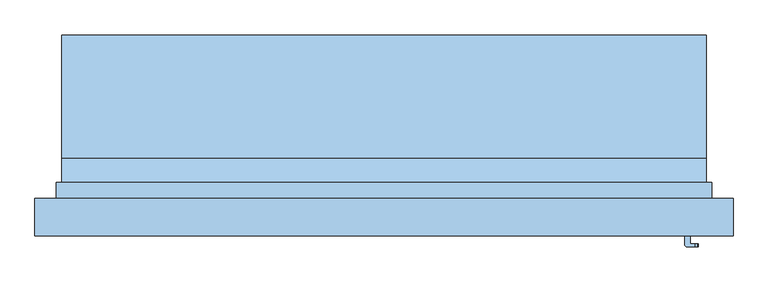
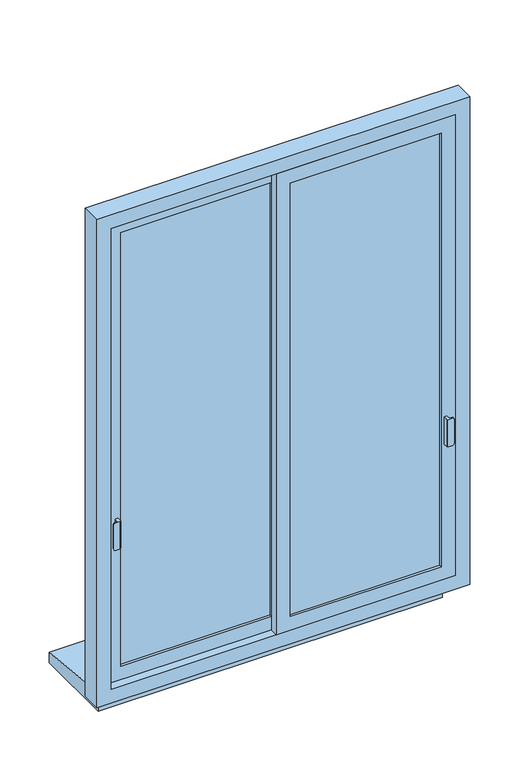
"""IFC4 building model written with IfcOpenShell, lengths in millimetres: window geometry, Fenêtres - 2 Vantaux coulissants - Droits - 1.20m x 1.75m."""

from ifc_helpers import new_model, si_unit, frame, origin, place, context, project, spatial, polyline, outline, extrude, faceted_brep, source, transform, mapped, element, save


def window_433253bf(model_context):
    return source(origin(), model_context, "Body", "SolidModel", [
        extrude(outline(polyline([(100.0, 371.0), (625.0, 371.0), (625.0, 359.0), (100.0, 359.0), (100.0, 371.0)])), frame((0.0, 0.0, 180.0), z_axis=(0.0, 0.0, 1.0), x_axis=(1.0, 0.0, 0.0)), (0.0, 0.0, 1.0), 1600.0),
        extrude(outline(polyline([(130.0, 675.0), (1830.0, 675.0), (1830.0, 50.0), (130.0, 50.0), (130.0, 675.0)]), holes=[polyline([(180.0, 100.0), (1780.0, 100.0), (1780.0, 625.0), (180.0, 625.0), (180.0, 100.0)])]), frame((0.0, 350.0, 0.0), z_axis=(0.0, 1.0, 0.0), x_axis=(0.0, 0.0, 1.0)), (0.0, 0.0, 1.0), 30.0),
        extrude(outline(polyline([(675.0, 341.0), (1200.0, 341.0), (1200.0, 329.0), (675.0, 329.0), (675.0, 341.0)])), frame((0.0, 0.0, 180.0), z_axis=(0.0, 0.0, 1.0), x_axis=(1.0, 0.0, 0.0)), (0.0, 0.0, 1.0), 1600.0),
        extrude(outline(polyline([(130.0, 1250.0), (1830.0, 1250.0), (1830.0, 625.0), (130.0, 625.0), (130.0, 1250.0)]), holes=[polyline([(180.0, 675.0), (1780.0, 675.0), (1780.0, 1200.0), (180.0, 1200.0), (180.0, 675.0)])]), frame((0.0, 320.0, 0.0), z_axis=(0.0, 1.0, 0.0), x_axis=(0.0, 0.0, 1.0)), (0.0, 0.0, 1.0), 30.0),
        extrude(outline(polyline([(80.0, 40.0), (80.0, 50.0), (1830.0, 50.0), (1830.0, 1250.0), (80.0, 1250.0), (80.0, 1260.0), (1840.0, 1260.0), (1840.0, 40.0), (80.0, 40.0)])), frame((0.0, 390.0, 0.0), z_axis=(0.0, 1.0, 0.0), x_axis=(0.0, 0.0, 1.0)), (0.0, 0.0, 1.0), 30.0),
        faceted_brep([(90.0, 332.4686818, 630.0), (87.5313182, 330.0, 630.0), (70.9522175, 330.0, 630.0), (70.9522175, 335.0, 630.0), (80.0, 335.0, 630.0), (80.0, 350.0, 630.0), (90.0, 350.0, 630.0), (90.0, 350.0, 730.0), (80.0, 350.0, 730.0), (80.0, 335.0, 730.0), (70.9522175, 335.0, 730.0), (70.9522175, 330.0, 730.0), (87.5313182, 330.0, 730.0), (90.0, 332.4686818, 730.0), (66.7433641, 335.0, 631.7433641), (65.0, 335.0, 635.9522175), (65.0, 335.0, 724.0477825), (66.7433641, 335.0, 728.2566359), (65.0, 330.0, 635.9522175), (65.0, 330.0, 724.0477825), (66.7433641, 330.0, 631.7433641), (66.7433641, 330.0, 728.2566359)], [[[0, 1, 2, 3, 4, 5, 6]], [[7, 8, 9, 10, 11, 12, 13]], [[7, 13, 0, 6]], [[8, 7, 6, 5]], [[9, 8, 5, 4]], [[14, 15, 16, 17, 10, 9, 4, 3]], [[18, 19, 16, 15]], [[20, 2, 1, 12, 11, 21, 19, 18]], [[13, 12, 1, 0]], [[11, 10, 17, 21]], [[17, 16, 19, 21]], [[18, 15, 14, 20]], [[14, 3, 2, 20]]]),
        faceted_brep([(1220.0, 320.0, 630.0), (1220.0, 305.0, 630.0), (1229.0477825, 305.0, 630.0), (1229.0477825, 300.0, 630.0), (1212.4686818, 300.0, 630.0), (1210.0, 302.4686818, 630.0), (1210.0, 320.0, 630.0), (1220.0, 320.0, 730.0), (1210.0, 320.0, 730.0), (1210.0, 302.4686818, 730.0), (1212.4686818, 300.0, 730.0), (1229.0477825, 300.0, 730.0), (1229.0477825, 305.0, 730.0), (1220.0, 305.0, 730.0), (1233.2566359, 305.0, 631.7433641), (1233.2566359, 305.0, 728.2566359), (1235.0, 305.0, 724.0477825), (1235.0, 305.0, 635.9522175), (1235.0, 300.0, 724.0477825), (1235.0, 300.0, 635.9522175), (1233.2566359, 300.0, 631.7433641), (1233.2566359, 300.0, 728.2566359)], [[[0, 1, 2, 3, 4, 5, 6]], [[7, 8, 9, 10, 11, 12, 13]], [[8, 6, 5, 9]], [[7, 0, 6, 8]], [[13, 1, 0, 7]], [[14, 2, 1, 13, 12, 15, 16, 17]], [[18, 19, 17, 16]], [[3, 20, 19, 18, 21, 11, 10, 4]], [[9, 5, 4, 10]], [[12, 11, 21, 15]], [[16, 15, 21, 18]], [[17, 19, 20, 14]], [[2, 14, 20, 3]]]),
        faceted_brep([(1300.0, 320.0, 80.0), (0.0, 320.0, 80.0), (0.0, 390.0, 80.0), (50.0, 390.0, 80.0), (50.0, 455.0, 80.0), (1250.0, 455.0, 80.0), (1250.0, 390.0, 80.0), (1300.0, 390.0, 80.0), (0.0, 390.0, 1880.0), (0.0, 320.0, 1880.0), (1300.0, 390.0, 1880.0), (1250.0, 390.0, 128.7543642), (50.0, 390.0, 128.7543642), (1235.0, 390.0, 1815.0), (65.0, 390.0, 1815.0), (65.0, 390.0, 145.0), (1235.0, 390.0, 145.0), (50.0, 465.0, 108.6581748), (50.0, 465.0, 75.0), (50.0, 455.0, 75.0), (1250.0, 455.0, 75.0), (1250.0, 465.0, 75.0), (1250.0, 465.0, 108.6581748), (1300.0, 320.0, 1880.0), (50.0, 320.0, 1830.0), (1250.0, 320.0, 1830.0), (1250.0, 320.0, 130.0), (50.0, 320.0, 130.0), (65.0, 380.0, 1815.0), (65.0, 380.0, 145.0), (1235.0, 380.0, 145.0), (1235.0, 380.0, 1815.0), (1250.0, 380.0, 130.0), (1250.0, 380.0, 1830.0), (50.0, 380.0, 1830.0), (50.0, 380.0, 130.0)], [[[0, 1, 2, 3, 4, 5, 6, 7]], [[8, 2, 1, 9]], [[3, 2, 8, 10, 7, 6, 11, 12], [13, 14, 15, 16]], [[3, 12, 17, 18, 19, 4]], [[5, 4, 19, 20]], [[6, 5, 20, 21, 22, 11]], [[0, 7, 10, 23]], [[9, 1, 0, 23], [24, 25, 26, 27]], [[15, 14, 28, 29]], [[15, 29, 30, 16]], [[30, 31, 13, 16]], [[22, 17, 12, 11]], [[32, 33, 34, 35], [29, 28, 31, 30]], [[27, 35, 34, 24]], [[35, 27, 26, 32]], [[26, 25, 33, 32]], [[21, 18, 17, 22]], [[20, 19, 18, 21]], [[28, 14, 13, 31]], [[24, 34, 33, 25]], [[23, 10, 8, 9]]]),
        extrude(outline(polyline([(400.0, 80.0), (450.0, 80.0), (450.0, 65.0), (695.0, 39.2494624), (695.0, 0.0), (400.0, 0.0), (400.0, 80.0)])), frame((50.0, 0.0, 0.0), z_axis=(1.0, 0.0, 0.0), x_axis=(0.0, 1.0, 0.0)), (0.0, 0.0, 1.0), 1200.0),
    ])


if __name__ == "__main__":
    model = new_model("IFC4")
    model_context = context("Model", 3, world=origin())
    ifc_project = project(units=[si_unit("LENGTHUNIT", "METRE", prefix="MILLI")], contexts=[model_context])
    site = spatial("IfcSite", under=ifc_project)
    building = spatial("IfcBuilding", under=site)
    placement = place(None, origin())
    window_shape = window_433253bf(model_context)
    element("IfcWindow", 1, ObjectType="Fenêtres - 2 Vantaux coulissants - Droits - 1.20m x 1.75m", at=placement, inside=building, context=model_context, shape_type="MappedRepresentation", body=[
        mapped(window_shape, transform((0.0, 0.0, 0.0), x_axis=(1.0, 0.0, 0.0), y_axis=(0.0, 1.0, 0.0), z_axis=(0.0, 0.0, 1.0))),
    ])
    save(model, "model.ifc")
